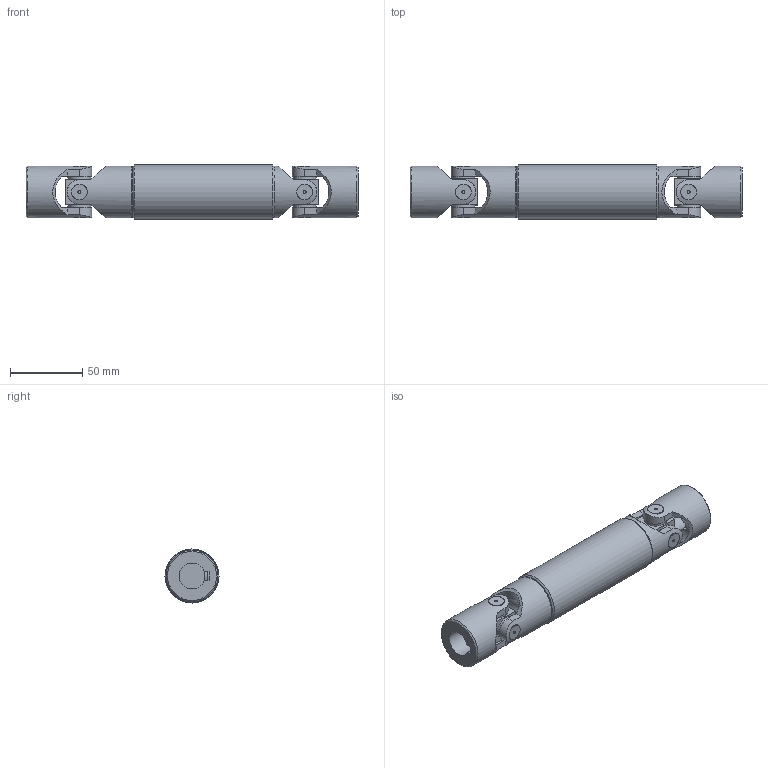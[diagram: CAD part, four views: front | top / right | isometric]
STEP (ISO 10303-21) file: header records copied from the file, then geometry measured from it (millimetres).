
FILE_DESCRIPTION(/* description */ (''),/* implementation_level */ '2;1');
FILE_NAME(/* name */ '\\SRV2016\Societa\Stefano\Disegni 3D\00Catalogo 3D\03Trasmissioni standard GA\2GA10\2GA10_SG0A1810.stp',/* time_stamp */ '2022-02-16T16:30:17+01:00',/* author */ ('acquisti'),/* organization */ (''),/* preprocessor_version */ 'ST-DEVELOPER v15.6',/* originating_system */ 'Autodesk Inventor 2015',/* authorisation */ '');
FILE_SCHEMA (('AUTOMOTIVE_DESIGN { 1 0 10303 214 3 1 1 }'));
Length unit declared in the file: millimetre
Products named in the file (5): 2G MOC; 2G SFE; 2GA10 LAI; 2GA10 LCI; 2GA10_SG0A1810
Assembly tree (6 placements, depth 2):
  2GA10_SG0A1810
    2G MOC  x2
    2G SFE  x2
    2GA10 LAI
    2GA10 LCI
Bounding box: 230 x 37.5 x 37.5 mm (x, y, z)
Volume: 176703.1 mm3; surface area: 57406.3 mm2
Topology: 6 solids, 6 shells, 228 faces, 561 edges, 369 vertices
Faces by surface type: plane 106, cylinder 93, cone 25, torus 4
Full cylindrical faces by diameter (mm): 2 x8, 16 x8, 18 x1, 20 x2, 31 x1, 36 x4, 37.5 x1
Entity records: 5813 total; most frequent: CARTESIAN_POINT 1703, DIRECTION 823, ORIENTED_EDGE 820, EDGE_CURVE 410, AXIS2_PLACEMENT_3D 335, VERTEX_POINT 286, EDGE_LOOP 224, FACE_OUTER_BOUND 176
